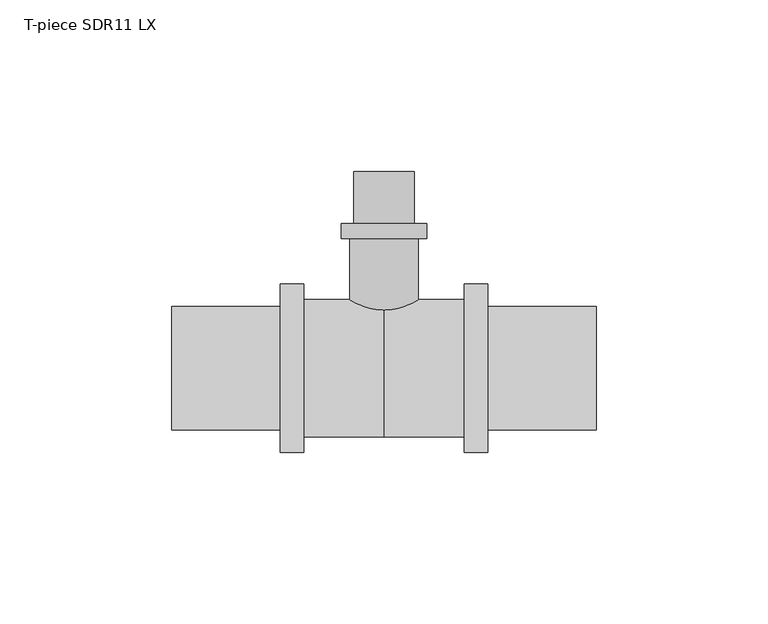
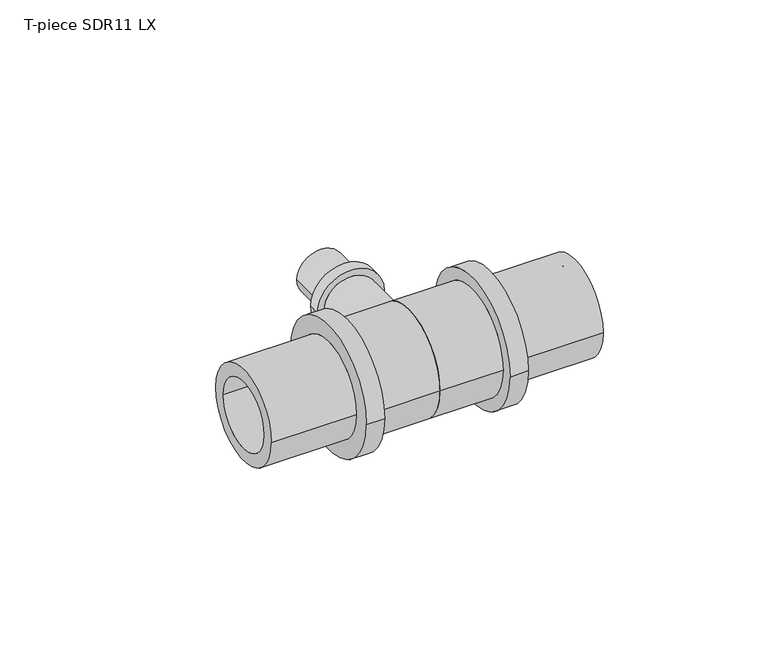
"""IFC4 building model written with IfcOpenShell, lengths in millimetres: pipe fitting geometry, T-piece SDR11 LX : T-piece LX SDR11 LX."""

from ifc_helpers import new_model, si_unit, point, frame, origin, place, context, project, spatial, polyline, circle_curve, ellipse_curve, trimmed, source, transform, mapped, element, save
from ifc_brep_helpers import plane_surface, cylinder_surface, revolved_surface, advanced_brep


def t_piece_sdr11_lx_031e45e8(model_context):
    return source(origin(), model_context, "Body", "AdvancedBrep", [
        advanced_brep(
        [(10.0, 1.0764093, 0.0), (-10.0, 1.0764093, 0.0), (-10.0, 37.8, 0.0), (10.0, 37.8, 0.0), (6.8, 57.3, 0.0), (-6.8, 57.3, 0.0), (-6.8, 0.0, 0.0), (6.8, 0.0, 0.0), (8.85, 42.2, 0.0), (-8.85, 42.2, 0.0), (-8.85, 57.3, 0.0), (8.85, 57.3, 0.0), (12.5, 37.8, 0.0), (-12.5, 37.8, 0.0), (-12.5, 42.2, 0.0), (12.5, 42.2, 0.0)],
        [
            (0, 1, circle_curve(frame((0.0, 1.0764093, 0.0), z_axis=(0.0, 1.0, 0.0), x_axis=(-1.0, 0.0, 0.0)), 10.0)),
            (1, 2),
            (2, 3, circle_curve(frame((0.0, 37.8, 0.0), z_axis=(0.0, -1.0, 0.0), x_axis=(-1.0, 0.0, 0.0)), 10.0)),
            (3, 0),
            (4, 5, circle_curve(frame((0.0, 57.3, 0.0), z_axis=(0.0, 1.0, 0.0), x_axis=(-1.0, 0.0, 0.0)), 6.8)),
            (5, 6),
            (6, 7, circle_curve(frame((0.0, 0.0, 0.0), z_axis=(0.0, -1.0, 0.0), x_axis=(-1.0, 0.0, 0.0)), 6.8)),
            (7, 4),
            (8, 9, circle_curve(frame((0.0, 42.2, 0.0), z_axis=(0.0, 1.0, 0.0), x_axis=(-1.0, 0.0, 0.0)), 8.85)),
            (9, 10),
            (10, 11, circle_curve(frame((0.0, 57.3, 0.0), z_axis=(0.0, -1.0, 0.0), x_axis=(-1.0, 0.0, 0.0)), 8.85)),
            (11, 8),
            (12, 13, circle_curve(frame((0.0, 37.8, 0.0), z_axis=(0.0, 1.0, 0.0), x_axis=(-1.0, 0.0, 0.0)), 12.5)),
            (13, 14),
            (14, 15, circle_curve(frame((0.0, 42.2, 0.0), z_axis=(0.0, -1.0, 0.0), x_axis=(-1.0, 0.0, 0.0)), 12.5)),
            (15, 12),
            (12, 13, circle_curve(frame((0.0, 37.8, 0.0), z_axis=(0.0, -1.0, 0.0), x_axis=(1.0, 0.0, 0.0)), 12.5)),
            (2, 3, circle_curve(frame((0.0, 37.8, 0.0), z_axis=(0.0, 1.0, 0.0), x_axis=(1.0, 0.0, 0.0)), 10.0)),
            (1, 0, circle_curve(frame((0.0, 1.0764093, 0.0), z_axis=(0.0, 1.0, 0.0), x_axis=(1.0, 0.0, 0.0)), 10.0)),
            (5, 4, circle_curve(frame((0.0, 57.3, 0.0), z_axis=(0.0, 1.0, 0.0), x_axis=(1.0, 0.0, 0.0)), 6.8)),
            (7, 6, circle_curve(frame((0.0, 0.0, 0.0), z_axis=(0.0, -1.0, 0.0), x_axis=(1.0, 0.0, 0.0)), 6.8)),
            (10, 11, circle_curve(frame((0.0, 57.3, 0.0), z_axis=(0.0, 1.0, 0.0), x_axis=(1.0, 0.0, 0.0)), 8.85)),
            (9, 8, circle_curve(frame((0.0, 42.2, 0.0), z_axis=(0.0, 1.0, 0.0), x_axis=(1.0, 0.0, 0.0)), 8.85)),
            (14, 15, circle_curve(frame((0.0, 42.2, 0.0), z_axis=(0.0, 1.0, 0.0), x_axis=(1.0, 0.0, 0.0)), 12.5)),
            (6, 1, circle_curve(frame((-2.0462802, 19.4268409, 0.0), z_axis=(0.0, 0.0, -1.0), x_axis=(0.0, -1.0, 0.0)), 20.0)),
            (0, 7, circle_curve(frame((2.0462802, 19.4268409, 0.0), z_axis=(0.0, 0.0, -1.0), x_axis=(0.0, -1.0, 0.0)), 20.0)),
        ],
        [
            cylinder_surface(frame((0.0, 0.0, 0.0), z_axis=(0.0, -1.0, 0.0), x_axis=(-1.0, 0.0, 0.0)), 10.0),
            revolved_surface(polyline([(-6.8, 0.0, 0.0), (-6.8, 57.3, 0.0)]), (0.0, 0.0, 0.0), (0.0, -1.0, 0.0)),
            cylinder_surface(frame((0.0, 0.0, 0.0), z_axis=(0.0, -1.0, 0.0), x_axis=(-1.0, 0.0, 0.0)), 8.85),
            cylinder_surface(frame((0.0, 0.0, 0.0), z_axis=(0.0, -1.0, 0.0), x_axis=(-1.0, 0.0, 0.0)), 12.5),
            plane_surface(frame((0.0, 37.8, 0.0), z_axis=(0.0, -1.0, 0.0), x_axis=(1.0, 0.0, 0.0))),
            cylinder_surface(frame((0.0, 0.0, 0.0), z_axis=(0.0, -1.0, 0.0), x_axis=(1.0, 0.0, 0.0)), 10.0),
            revolved_surface(polyline([(6.8, 0.0, 0.0), (6.8, 57.3, 0.0)]), (0.0, 0.0, 0.0), (0.0, -1.0, 0.0)),
            plane_surface(frame((0.0, 57.3, 0.0), z_axis=(0.0, 1.0, 0.0), x_axis=(1.0, 0.0, 0.0))),
            cylinder_surface(frame((0.0, 0.0, 0.0), z_axis=(0.0, -1.0, 0.0), x_axis=(1.0, 0.0, 0.0)), 8.85),
            plane_surface(frame((0.0, 42.2, 0.0), z_axis=(0.0, 1.0, 0.0), x_axis=(1.0, 0.0, 0.0))),
            cylinder_surface(frame((0.0, 0.0, 0.0), z_axis=(0.0, -1.0, 0.0), x_axis=(1.0, 0.0, 0.0)), 12.5),
            revolved_surface(trimmed(ellipse_curve(frame((-2.0462802, 19.4268409, 0.0), z_axis=(0.0, 0.0, 1.0), x_axis=(0.0, -1.0, 0.0)), 20.0, 20.0), [point((-10.0, 1.0764093, 0.0))], [point((-6.8, 0.0, 0.0))], True, "CARTESIAN"), (0.0, 0.0, 0.0), (0.0, -1.0, 0.0)),
            revolved_surface(trimmed(ellipse_curve(frame((2.0462802, 19.4268409, 0.0), z_axis=(0.0, 0.0, -1.0), x_axis=(0.0, -1.0, 0.0)), 20.0, 20.0), [point((10.0, 1.0764093, 0.0))], [point((6.8, 0.0, 0.0))], True, "CARTESIAN"), (0.0, 0.0, 0.0), (0.0, -1.0, 0.0)),
        ],
        [
            (0, [[1, 2, 3, 4]]),
            (1, [[5, 6, 7, 8]]),
            (2, [[9, 10, 11, 12]]),
            (3, [[13, 14, 15, 16]]),
            (4, [[17, -13], [18, -3]]),
            (5, [[19, -4, -18, -2]]),
            (6, [[20, -8, 21, -6]]),
            (7, [[22, -11], [-20, -5]]),
            (8, [[23, -12, -22, -10]]),
            (9, [[24, -15], [-23, -9]]),
            (10, [[-17, -16, -24, -14]]),
            (11, [[-7, 25, -1, 26]]),
            (12, [[-21, -26, -19, -25]]),
        ],
    ),
        advanced_brep(
        [(23.4, 20.0, 0.0), (23.4, -20.0, 0.0), (0.0, -20.0, 0.0), (0.0, 20.0, 0.0), (0.0, 13.1, 0.0), (0.0, -13.1, 0.0), (61.8, -13.1, 0.0), (61.8, 13.1, 0.0), (61.8, 18.0, 0.0), (61.8, -18.0, 0.0), (30.2, -18.0, 0.0), (30.2, 18.0, 0.0), (30.2, 24.5, 0.0), (30.2, -24.5, 0.0), (23.4, -24.5, 0.0), (23.4, 24.5, 0.0)],
        [
            (0, 1, circle_curve(frame((23.4, 0.0, 0.0), z_axis=(-1.0, 0.0, 0.0), x_axis=(0.0, -1.0, 0.0)), 20.0)),
            (1, 2),
            (2, 3, circle_curve(frame((0.0, 0.0, 0.0), z_axis=(1.0, 0.0, 0.0), x_axis=(0.0, -1.0, 0.0)), 20.0)),
            (3, 0),
            (4, 5, circle_curve(frame((0.0, 0.0, 0.0), z_axis=(-1.0, 0.0, 0.0), x_axis=(0.0, -1.0, 0.0)), 13.1)),
            (5, 6),
            (6, 7, circle_curve(frame((61.8, 0.0, 0.0), z_axis=(1.0, 0.0, 0.0), x_axis=(0.0, -1.0, 0.0)), 13.1)),
            (7, 4),
            (8, 9, circle_curve(frame((61.8, 0.0, 0.0), z_axis=(-1.0, 0.0, 0.0), x_axis=(0.0, -1.0, 0.0)), 18.0)),
            (9, 10),
            (10, 11, circle_curve(frame((30.2, 0.0, 0.0), z_axis=(1.0, 0.0, 0.0), x_axis=(0.0, -1.0, 0.0)), 18.0)),
            (11, 8),
            (12, 13, circle_curve(frame((30.2, 0.0, 0.0), z_axis=(-1.0, 0.0, 0.0), x_axis=(0.0, -1.0, 0.0)), 24.5)),
            (13, 14),
            (14, 15, circle_curve(frame((23.4, 0.0, 0.0), z_axis=(1.0, 0.0, 0.0), x_axis=(0.0, -1.0, 0.0)), 24.5)),
            (15, 12),
            (14, 15, circle_curve(frame((23.4, 0.0, 0.0), z_axis=(-1.0, 0.0, 0.0), x_axis=(0.0, 1.0, 0.0)), 24.5)),
            (0, 1, circle_curve(frame((23.4, 0.0, 0.0), z_axis=(1.0, 0.0, 0.0), x_axis=(0.0, 1.0, 0.0)), 20.0)),
            (3, 2, circle_curve(frame((0.0, 0.0, 0.0), z_axis=(1.0, 0.0, 0.0), x_axis=(0.0, 1.0, 0.0)), 20.0)),
            (4, 5, circle_curve(frame((0.0, 0.0, 0.0), z_axis=(1.0, 0.0, 0.0), x_axis=(0.0, 1.0, 0.0)), 13.1)),
            (7, 6, circle_curve(frame((61.8, 0.0, 0.0), z_axis=(1.0, 0.0, 0.0), x_axis=(0.0, 1.0, 0.0)), 13.1)),
            (8, 9, circle_curve(frame((61.8, 0.0, 0.0), z_axis=(1.0, 0.0, 0.0), x_axis=(0.0, 1.0, 0.0)), 18.0)),
            (11, 10, circle_curve(frame((30.2, 0.0, 0.0), z_axis=(1.0, 0.0, 0.0), x_axis=(0.0, 1.0, 0.0)), 18.0)),
            (12, 13, circle_curve(frame((30.2, 0.0, 0.0), z_axis=(1.0, 0.0, 0.0), x_axis=(0.0, 1.0, 0.0)), 24.5)),
        ],
        [
            cylinder_surface(frame((0.0, 0.0, 0.0), z_axis=(1.0, 0.0, 0.0), x_axis=(0.0, -1.0, 0.0)), 20.0),
            revolved_surface(polyline([(61.8, -13.1, 0.0), (0.0, -13.1, 0.0)]), (0.0, 0.0, 0.0), (1.0, 0.0, 0.0)),
            cylinder_surface(frame((0.0, 0.0, 0.0), z_axis=(1.0, 0.0, 0.0), x_axis=(0.0, -1.0, 0.0)), 18.0),
            cylinder_surface(frame((0.0, 0.0, 0.0), z_axis=(1.0, 0.0, 0.0), x_axis=(0.0, -1.0, 0.0)), 24.5),
            plane_surface(frame((23.4, 0.0, 0.0), z_axis=(-1.0, 0.0, 0.0), x_axis=(0.0, 1.0, 0.0))),
            cylinder_surface(frame((0.0, 0.0, 0.0), z_axis=(1.0, 0.0, 0.0), x_axis=(0.0, 1.0, 0.0)), 20.0),
            plane_surface(frame((0.0, 0.0, 0.0), z_axis=(-1.0, 0.0, 0.0), x_axis=(0.0, 1.0, 0.0))),
            revolved_surface(polyline([(61.8, 13.1, 0.0), (0.0, 13.1, 0.0)]), (0.0, 0.0, 0.0), (1.0, 0.0, 0.0)),
            plane_surface(frame((61.8, 0.0, 0.0), z_axis=(1.0, 0.0, 0.0), x_axis=(0.0, 1.0, 0.0))),
            cylinder_surface(frame((0.0, 0.0, 0.0), z_axis=(1.0, 0.0, 0.0), x_axis=(0.0, 1.0, 0.0)), 18.0),
            plane_surface(frame((30.2, 0.0, 0.0), z_axis=(1.0, 0.0, 0.0), x_axis=(0.0, 1.0, 0.0))),
            cylinder_surface(frame((0.0, 0.0, 0.0), z_axis=(1.0, 0.0, 0.0), x_axis=(0.0, 1.0, 0.0)), 24.5),
        ],
        [
            (0, [[1, 2, 3, 4]]),
            (1, [[5, 6, 7, 8]]),
            (2, [[9, 10, 11, 12]]),
            (3, [[13, 14, 15, 16]]),
            (4, [[17, -15], [18, -1]]),
            (5, [[-18, -4, 19, -2]]),
            (6, [[-19, -3], [20, -5]]),
            (7, [[-20, -8, 21, -6]]),
            (8, [[22, -9], [-21, -7]]),
            (9, [[-22, -12, 23, -10]]),
            (10, [[24, -13], [-23, -11]]),
            (11, [[-24, -16, -17, -14]]),
        ],
    ),
        advanced_brep(
        [(0.0, 20.0, 0.0), (0.0, -20.0, 0.0), (-23.4, -20.0, 0.0), (-23.4, 20.0, 0.0), (-61.8, 13.1, 0.0), (-61.8, -13.1, 0.0), (0.0, -13.1, 0.0), (0.0, 13.1, 0.0), (-30.2, 18.0, 0.0), (-30.2, -18.0, 0.0), (-61.8, -18.0, 0.0), (-61.8, 18.0, 0.0), (-23.4, 24.5, 0.0), (-23.4, -24.5, 0.0), (-30.2, -24.5, 0.0), (-30.2, 24.5, 0.0)],
        [
            (0, 1, circle_curve(frame((0.0, 0.0, 0.0), z_axis=(-1.0, 0.0, 0.0), x_axis=(0.0, -1.0, 0.0)), 20.0)),
            (1, 2),
            (2, 3, circle_curve(frame((-23.4, 0.0, 0.0), z_axis=(1.0, 0.0, 0.0), x_axis=(0.0, -1.0, 0.0)), 20.0)),
            (3, 0),
            (4, 5, circle_curve(frame((-61.8, 0.0, 0.0), z_axis=(-1.0, 0.0, 0.0), x_axis=(0.0, -1.0, 0.0)), 13.1)),
            (5, 6),
            (6, 7, circle_curve(frame((0.0, 0.0, 0.0), z_axis=(1.0, 0.0, 0.0), x_axis=(0.0, -1.0, 0.0)), 13.1)),
            (7, 4),
            (8, 9, circle_curve(frame((-30.2, 0.0, 0.0), z_axis=(-1.0, 0.0, 0.0), x_axis=(0.0, -1.0, 0.0)), 18.0)),
            (9, 10),
            (10, 11, circle_curve(frame((-61.8, 0.0, 0.0), z_axis=(1.0, 0.0, 0.0), x_axis=(0.0, -1.0, 0.0)), 18.0)),
            (11, 8),
            (12, 13, circle_curve(frame((-23.4, 0.0, 0.0), z_axis=(-1.0, 0.0, 0.0), x_axis=(0.0, -1.0, 0.0)), 24.5)),
            (13, 14),
            (14, 15, circle_curve(frame((-30.2, 0.0, 0.0), z_axis=(1.0, 0.0, 0.0), x_axis=(0.0, -1.0, 0.0)), 24.5)),
            (15, 12),
            (12, 13, circle_curve(frame((-23.4, 0.0, 0.0), z_axis=(1.0, 0.0, 0.0), x_axis=(0.0, 1.0, 0.0)), 24.5)),
            (2, 3, circle_curve(frame((-23.4, 0.0, 0.0), z_axis=(-1.0, 0.0, 0.0), x_axis=(0.0, 1.0, 0.0)), 20.0)),
            (1, 0, circle_curve(frame((0.0, 0.0, 0.0), z_axis=(-1.0, 0.0, 0.0), x_axis=(0.0, 1.0, 0.0)), 20.0)),
            (6, 7, circle_curve(frame((0.0, 0.0, 0.0), z_axis=(-1.0, 0.0, 0.0), x_axis=(0.0, 1.0, 0.0)), 13.1)),
            (5, 4, circle_curve(frame((-61.8, 0.0, 0.0), z_axis=(-1.0, 0.0, 0.0), x_axis=(0.0, 1.0, 0.0)), 13.1)),
            (10, 11, circle_curve(frame((-61.8, 0.0, 0.0), z_axis=(-1.0, 0.0, 0.0), x_axis=(0.0, 1.0, 0.0)), 18.0)),
            (9, 8, circle_curve(frame((-30.2, 0.0, 0.0), z_axis=(-1.0, 0.0, 0.0), x_axis=(0.0, 1.0, 0.0)), 18.0)),
            (14, 15, circle_curve(frame((-30.2, 0.0, 0.0), z_axis=(-1.0, 0.0, 0.0), x_axis=(0.0, 1.0, 0.0)), 24.5)),
        ],
        [
            cylinder_surface(frame((0.0, 0.0, 0.0), z_axis=(1.0, 0.0, 0.0), x_axis=(0.0, -1.0, 0.0)), 20.0),
            revolved_surface(polyline([(0.0, -13.1, 0.0), (-61.8, -13.1, 0.0)]), (0.0, 0.0, 0.0), (1.0, 0.0, 0.0)),
            cylinder_surface(frame((0.0, 0.0, 0.0), z_axis=(1.0, 0.0, 0.0), x_axis=(0.0, -1.0, 0.0)), 18.0),
            cylinder_surface(frame((0.0, 0.0, 0.0), z_axis=(1.0, 0.0, 0.0), x_axis=(0.0, -1.0, 0.0)), 24.5),
            plane_surface(frame((-23.4, 0.0, 0.0), z_axis=(1.0, 0.0, 0.0), x_axis=(0.0, 1.0, 0.0))),
            cylinder_surface(frame((0.0, 0.0, 0.0), z_axis=(1.0, 0.0, 0.0), x_axis=(0.0, 1.0, 0.0)), 20.0),
            plane_surface(frame((0.0, 0.0, 0.0), z_axis=(1.0, 0.0, 0.0), x_axis=(0.0, 1.0, 0.0))),
            revolved_surface(polyline([(0.0, 13.1, 0.0), (-61.8, 13.1, 0.0)]), (0.0, 0.0, 0.0), (1.0, 0.0, 0.0)),
            plane_surface(frame((-61.8, 0.0, 0.0), z_axis=(-1.0, 0.0, 0.0), x_axis=(0.0, 1.0, 0.0))),
            cylinder_surface(frame((0.0, 0.0, 0.0), z_axis=(1.0, 0.0, 0.0), x_axis=(0.0, 1.0, 0.0)), 18.0),
            plane_surface(frame((-30.2, 0.0, 0.0), z_axis=(-1.0, 0.0, 0.0), x_axis=(0.0, 1.0, 0.0))),
            cylinder_surface(frame((0.0, 0.0, 0.0), z_axis=(1.0, 0.0, 0.0), x_axis=(0.0, 1.0, 0.0)), 24.5),
        ],
        [
            (0, [[1, 2, 3, 4]]),
            (1, [[5, 6, 7, 8]]),
            (2, [[9, 10, 11, 12]]),
            (3, [[13, 14, 15, 16]]),
            (4, [[17, -13], [18, -3]]),
            (5, [[19, -4, -18, -2]]),
            (6, [[-19, -1], [20, -7]]),
            (7, [[21, -8, -20, -6]]),
            (8, [[22, -11], [-21, -5]]),
            (9, [[23, -12, -22, -10]]),
            (10, [[24, -15], [-23, -9]]),
            (11, [[-17, -16, -24, -14]]),
        ],
    ),
    ])


if __name__ == "__main__":
    model = new_model("IFC4")
    model_context = context("Model", 3, world=origin())
    ifc_project = project(units=[si_unit("LENGTHUNIT", "METRE", prefix="MILLI")], contexts=[model_context])
    site = spatial("IfcSite", under=ifc_project)
    building = spatial("IfcBuilding", under=site)
    placement = place(None, origin())
    t_piece_sdr11_lx_shape = t_piece_sdr11_lx_031e45e8(model_context)
    element("IfcPipeFitting", 1, ObjectType="T-piece SDR11 LX : T-piece LX SDR11 LX", at=placement, inside=building, context=model_context, shape_type="MappedRepresentation", body=[
        mapped(t_piece_sdr11_lx_shape, transform((0.0, 0.0, 0.0), x_axis=(1.0, 0.0, 0.0), y_axis=(0.0, 1.0, 0.0), z_axis=(0.0, 0.0, 1.0))),
    ])
    save(model, "model.ifc")
